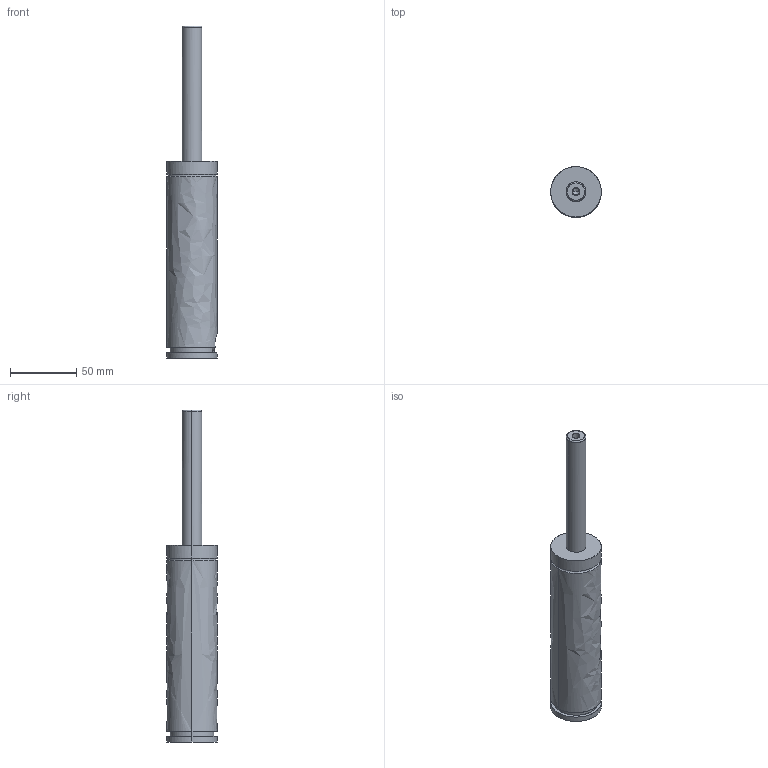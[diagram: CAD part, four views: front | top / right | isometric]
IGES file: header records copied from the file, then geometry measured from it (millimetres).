
Global section: file name: E:\UnigraphicsGraphicData\MISUMI_PRESS-PARTS\IGES\3d_gse38-100_03869_r00.igs; native system: NX V5.0; preprocessor: UGS NX IGES V5.0; author: MISUMI; date: 20110105.160755; units: millimetre
Bounding box: 38 x 38.02 x 250 mm (x, y, z)
Surface area: 26452.7 mm2 (no closed solid volume)
Topology: 0 solids, 0 shells, 57 faces, 430 edges, 428 vertices
Faces by surface type: bspline 57
